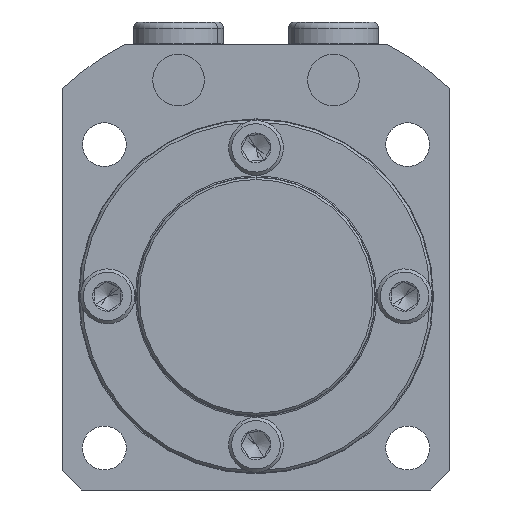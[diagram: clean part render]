
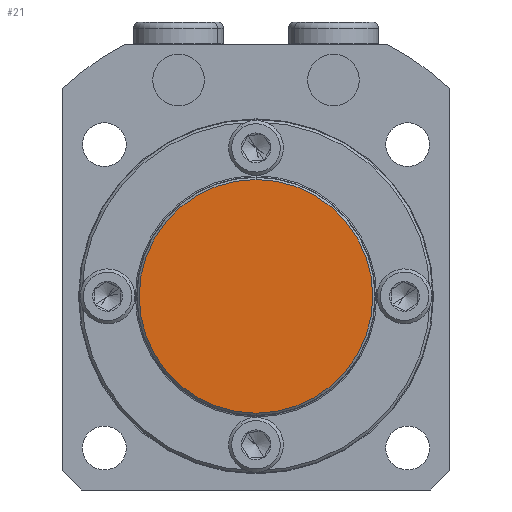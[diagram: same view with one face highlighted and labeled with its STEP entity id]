
A CAD part, front view. The second image highlights one B-rep face of the part: STEP entity #21.
In plain terms, the highlighted planar face has unit normal (0, -1, 0).
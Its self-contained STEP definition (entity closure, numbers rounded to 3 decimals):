
#21 = ADVANCED_FACE ( 'NONE', ( #2254 ), #2255, .T. ) ;
#520 = CARTESIAN_POINT ( 'NONE',  ( 0., -10., -18.1 ) ) ;
#523 = CARTESIAN_POINT ( 'NONE',  ( 0., -10., 18.1 ) ) ;
#1332 = EDGE_CURVE ( 'NONE', #2122, #2119, #1542, .T. ) ;
#1542 = CIRCLE ( 'NONE', #1545, 18.1 ) ;
#1545 = AXIS2_PLACEMENT_3D ( 'NONE', #6203, #6204, #6205 ) ;
#2119 = VERTEX_POINT ( 'NONE', #520 ) ;
#2122 = VERTEX_POINT ( 'NONE', #523 ) ;
#2246 = CARTESIAN_POINT ( 'NONE',  ( 0., -10., 0. ) ) ;
#2254 = FACE_OUTER_BOUND ( 'NONE', #6972, .T. ) ;
#2255 = PLANE ( 'NONE',  #6527 ) ;
#2258 = DIRECTION ( 'NONE',  ( 0., -1., 0. ) ) ;
#2259 = DIRECTION ( 'NONE',  ( 0., 0., -1. ) ) ;
#3012 = CIRCLE ( 'NONE', #3045, 18.1 ) ;
#3045 = AXIS2_PLACEMENT_3D ( 'NONE', #4872, #4873, #4874 ) ;
#3892 = EDGE_CURVE ( 'NONE', #2119, #2122, #3012, .T. ) ;
#4872 = CARTESIAN_POINT ( 'NONE',  ( 0., -10., 0. ) ) ;
#4873 = DIRECTION ( 'NONE',  ( 0., -1., 0. ) ) ;
#4874 = DIRECTION ( 'NONE',  ( 0., 0., -1. ) ) ;
#6203 = CARTESIAN_POINT ( 'NONE',  ( 0., -10., 0. ) ) ;
#6204 = DIRECTION ( 'NONE',  ( 0., -1., 0. ) ) ;
#6205 = DIRECTION ( 'NONE',  ( 0., 0., -1. ) ) ;
#6527 = AXIS2_PLACEMENT_3D ( 'NONE', #2246, #2258, #2259 ) ;
#6700 = ORIENTED_EDGE ( 'NONE', *, *, #1332, .T. ) ;
#6701 = ORIENTED_EDGE ( 'NONE', *, *, #3892, .T. ) ;
#6972 = EDGE_LOOP ( 'NONE', ( #6700, #6701 ) ) ;
